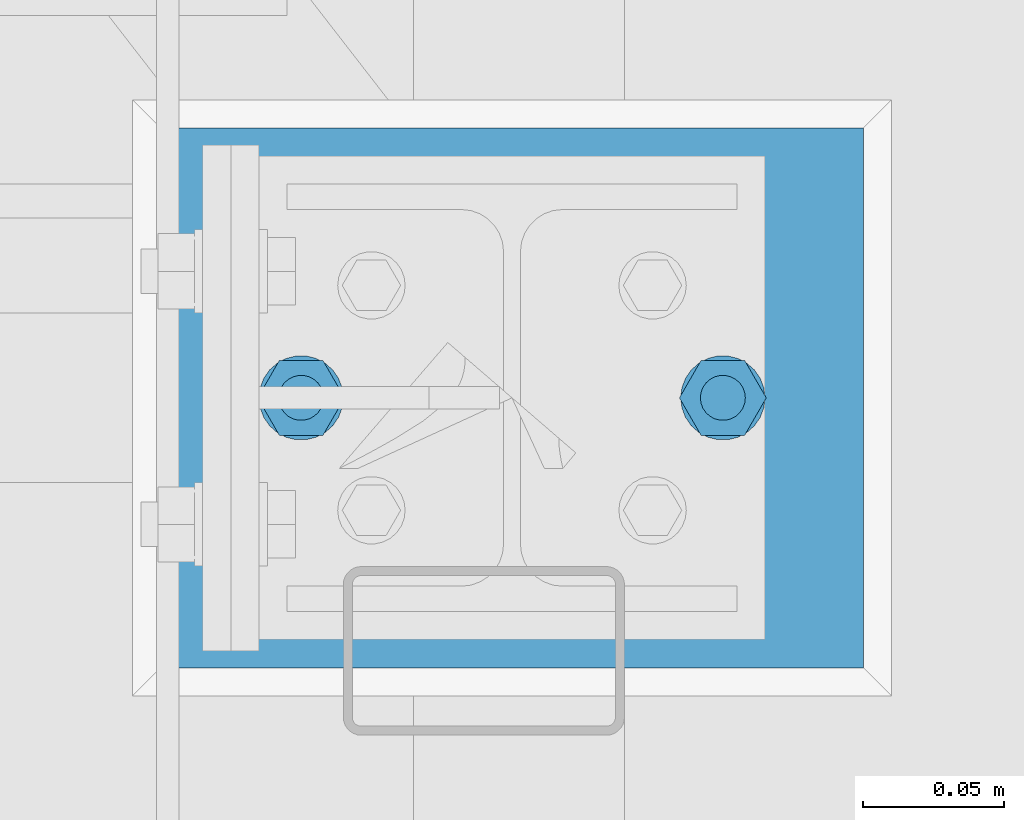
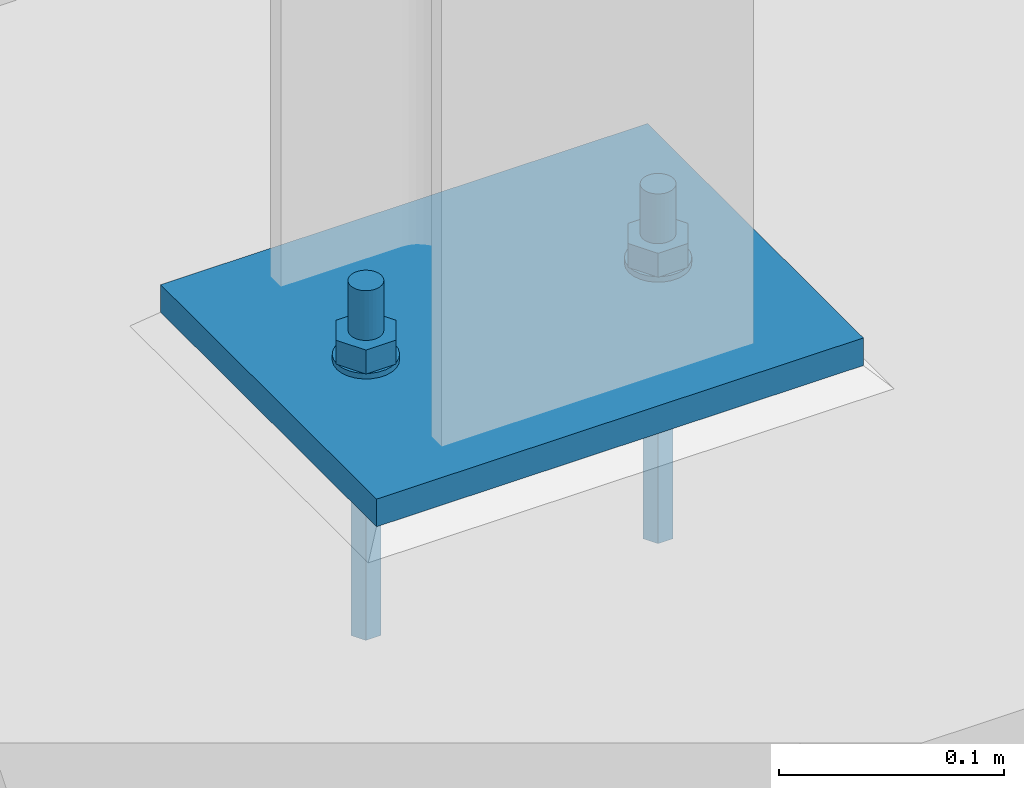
# One storey, part 26 of 26: 1 discrete accessory, 1 mechanical fastener, 1 element without a shape of its own.
"""IFC2X3 building model written with IfcOpenShell, lengths in millimetres."""

from ifc_helpers import new_model, si_unit, frame, origin_with_axes, origin_2d_with_axis, place, context, subcontext, project, spatial, polyline, circle, outline, extrude, source, transform, mapped, material, type_object, element, aggregate, save


model = new_model("IFC2X3")

# Units and contexts
model_context = context("Model", 3, precision=1e-05, world=origin_with_axes())
body_context = subcontext(model_context, "Body", "Model", "MODEL_VIEW")
ifc_project = project(units=[si_unit("LENGTHUNIT", "METRE", prefix="MILLI"), si_unit("AREAUNIT", "SQUARE_METRE"), si_unit("VOLUMEUNIT", "CUBIC_METRE"), si_unit("MASSUNIT", "GRAM", prefix="KILO"), si_unit("TIMEUNIT", "SECOND"), si_unit("PLANEANGLEUNIT", "RADIAN"), si_unit("SOLIDANGLEUNIT", "STERADIAN"), si_unit("THERMODYNAMICTEMPERATUREUNIT", "DEGREE_CELSIUS"), si_unit("LUMINOUSINTENSITYUNIT", "LUMEN")], contexts=[model_context])

# Site, building, storey
site_placement = place(None, origin_with_axes())
site = spatial("IfcSite", under=ifc_project, at=site_placement, Name="Undefined", CompositionType="ELEMENT")
building_placement = place(site_placement, origin_with_axes())
building = spatial("IfcBuilding", under=site, at=building_placement, Name="Undefined", CompositionType="ELEMENT")
storey_placement = place(building_placement, origin_with_axes())
storey = spatial("IfcBuildingStorey", under=building, at=storey_placement, Name="Undefined", CompositionType="ELEMENT", Elevation=0.0)

# Assembly, mechanical fastener, discrete accessory
assembly_placement = place(storey_placement, origin_with_axes())
assembly = element("IfcElementAssembly", 1, at=assembly_placement, inside=storey, Name="Steel Assembly", AssemblyPlace="NOTDEFINED", PredefinedType="RIGID_FRAME")
ifc_material_1 = material(Name="Undefined")
discrete_accessory_type_1 = type_object("IfcDiscreteAccessoryType", Name="Bolt assembly")
shared_shape = source(origin_with_axes(), body_context, "Body", "SweptSolid", [
    extrude(circle(Radius=9.0, at=origin_2d_with_axis()), frame((0.0, -15.0, 0.0), z_axis=(0.0, 1.0, 0.0), x_axis=(1.0, 0.0, 0.0)), (0.0, 0.0, 1.0), 15.1),
    extrude(outline(polyline([(7.73649338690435, 0.0), (3.86824669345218, 6.69999980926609), (-3.86824669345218, 6.69999980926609), (-7.73649338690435, 0.0), (-3.86824669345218, -6.69999980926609), (3.86824669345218, -6.69999980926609), (7.73649338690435, 0.0)])), frame((0.0, -147.0, 0.0), z_axis=(0.0, 1.0, 0.0), x_axis=(1.0, 0.0, 0.0)), (0.0, 0.0, 1.0), 132.0),
    extrude(circle(Radius=8.0, at=origin_2d_with_axis()), frame((0.0, -15.0, 0.0), z_axis=(0.0, 1.0, 0.0), x_axis=(1.0, 0.0, 0.0)), (0.0, 0.0, 1.0), 58.0),
    extrude(circle(Radius=15.0, at=origin_2d_with_axis()), frame((0.0, 0.0, 0.0), z_axis=(0.0, 1.0, 0.0), x_axis=(1.0, 0.0, 0.0)), (0.0, 0.0, 1.0), 3.0),
    extrude(outline(polyline([(15.4441197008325, 0.0), (7.72205985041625, 13.3750000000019), (-7.72205985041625, 13.3750000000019), (-15.4441197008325, 0.0), (-7.72205985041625, -13.3750000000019), (7.72205985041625, -13.3750000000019), (15.4441197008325, 0.0)])), frame((0.0, 3.0, 0.0), z_axis=(0.0, 1.0, 0.0), x_axis=(1.0, 0.0, 0.0)), (0.0, 0.0, 1.0), 13.0),
])
mechanical_fastener_placement = place(assembly_placement, frame((15975.0, 1260.0, -1975.0), z_axis=(0.0, -1.0, 0.0), x_axis=(1.0, 0.0, 0.0)))
mechanical_fastener = element("IfcMechanicalFastener", 2, at=mechanical_fastener_placement, type_object=discrete_accessory_type_1, material=ifc_material_1, Name="Bolt assembly", NominalDiameter=16.0, NominalLength=58.0, context=body_context, shape_type="MappedRepresentation", body=[
    mapped(shared_shape, transform((0.0, 0.0, 0.0))),
    mapped(shared_shape, transform((150.0, 0.0, 0.0))),
])
ifc_material_2 = material(Name="STEEL/S235JR")
discrete_accessory_type_2 = type_object("IfcDiscreteAccessoryType", Name="PLECH")
discrete_accessory_placement = place(assembly_placement, frame((16175.0, 1356.0, -1982.5), z_axis=(0.0, 0.0, 1.0), x_axis=(-1.0, 0.0, 0.0)))
discrete_accessory = element("IfcDiscreteAccessory", 3, at=discrete_accessory_placement, type_object=discrete_accessory_type_2, material=ifc_material_2, Name="PLECH", ObjectType="PL15*192", context=body_context, shape_type="SweptSolid", body=[
    extrude(outline(polyline([(0.0, 0.0), (250.0, 0.0), (250.0, 192.0), (0.0, 192.0), (0.0, 0.0)])), frame((0.0, 0.0, -7.5), z_axis=(0.0, 0.0, 1.0), x_axis=(1.0, 0.0, 0.0)), (0.0, 0.0, 1.0), 15.0),
])
aggregate(assembly, [mechanical_fastener, discrete_accessory])

save(model, "model.ifc")
